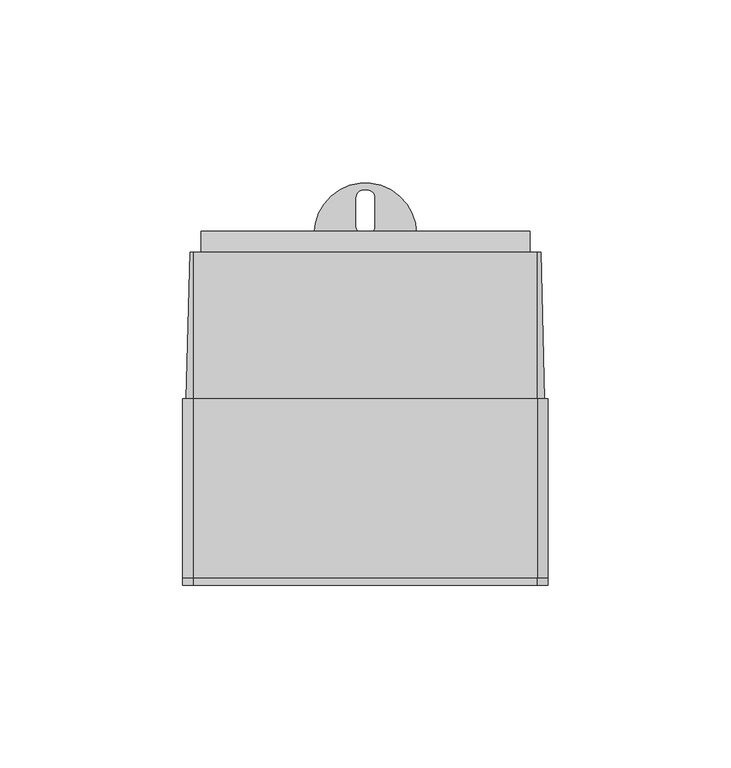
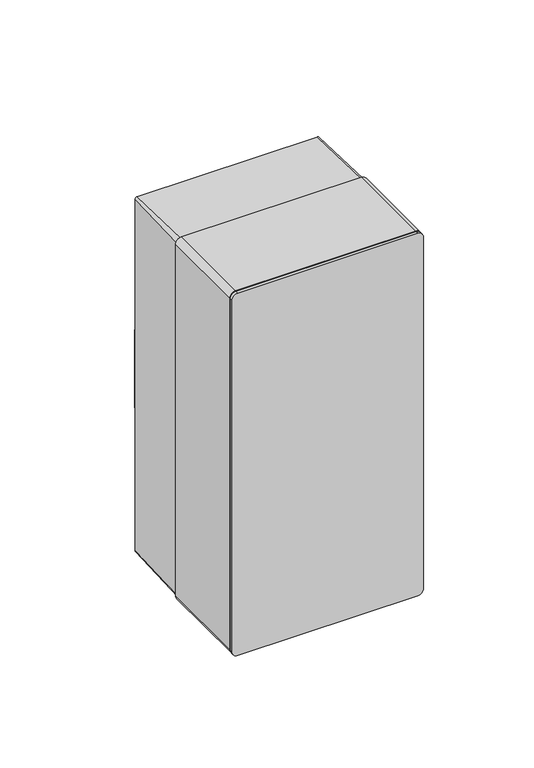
"""IFC4 building model written with IfcOpenShell, lengths in millimetres: proxy geometry, КМПнИ-4 : КМПнИ-4."""

from ifc_helpers import new_model, si_unit, point, frame, frame_2d, origin, place, context, project, spatial, polyline, circle_curve, trimmed, segment, composite_curve, outline, extrude, source, transform, mapped, element, save
from ifc_brep_helpers import plane_surface, cylinder_surface, revolved_surface, advanced_brep


def electrical_equipment_f46c113c(model_context):
    return source(origin(), model_context, "Body", "SolidModel", [
        advanced_brep(
        [(45.0, 91.0, 39.1505108), (45.0, 91.0, 158.5875038), (45.0, 81.0, 158.5875038), (45.0, 81.0, 39.1505108), (-45.0, 91.0, 39.1505108), (-45.0, 81.0, 39.1505108), (-45.0, 81.0, 158.5875038), (-45.0, 91.0, 158.5875038), (24.0, 91.0, 158.5875038), (24.0, 81.0, 158.5875038), (-24.0, 81.0, 158.5875038), (-24.0, 91.0, 158.5875038), (-14.0, 91.0, 39.1505108), (14.0, 91.0, 39.1505108), (24.0, 91.0, 165.0875038), (24.0, 88.0, 168.0875038), (24.0, 84.0, 168.0875038), (24.0, 81.0, 165.0875038), (-24.0, 81.0, 165.0875038), (-24.0, 84.0, 168.0875038), (-24.0, 88.0, 168.0875038), (-24.0, 91.0, 165.0875038), (-14.0, 96.0, 39.1505108), (14.0, 96.0, 39.1505108), (-2.5, 98.0, 39.1505108), (-2.5, 106.0, 39.1505108), (-0.5, 108.0, 39.1505108), (0.5, 108.0, 39.1505108), (2.5, 106.0, 39.1505108), (2.5, 98.0, 39.1505108), (0.5, 96.0, 39.1505108), (-0.5, 96.0, 39.1505108), (-14.0, 96.0, 33.1505108), (14.0, 96.0, 33.1505108), (14.0, 91.0, 33.1505108), (-14.0, 91.0, 33.1505108), (-2.5, 98.0, 33.1505108), (-0.5, 96.0, 33.1505108), (0.5, 96.0, 33.1505108), (2.5, 98.0, 33.1505108), (2.5, 106.0, 33.1505108), (0.5, 108.0, 33.1505108), (-0.5, 108.0, 33.1505108), (-2.5, 106.0, 33.1505108)],
        [
            (0, 1, circle_curve(frame((45.0, -181.7178029, 98.8690073), z_axis=(1.0, 0.0, 0.0), x_axis=(0.0, 0.0, -1.0)), 279.1796891)),
            (1, 2),
            (2, 3, circle_curve(frame((45.0, -191.7178029, 98.8690073), z_axis=(-1.0, 0.0, 0.0), x_axis=(0.0, 0.0, -1.0)), 279.1796891)),
            (3, 0),
            (4, 5),
            (5, 6, circle_curve(frame((-45.0, -191.7178029, 98.8690073), z_axis=(1.0, 0.0, 0.0), x_axis=(0.0, 0.0, -1.0)), 279.1796891)),
            (6, 7),
            (7, 4, circle_curve(frame((-45.0, -181.7178029, 98.8690073), z_axis=(-1.0, 0.0, 0.0), x_axis=(0.0, 0.0, -1.0)), 279.1796891)),
            (1, 8),
            (8, 9),
            (9, 2),
            (6, 10),
            (10, 11),
            (11, 7),
            (3, 5),
            (4, 12),
            (12, 13),
            (13, 0),
            (13, 12),
            (11, 8),
            (9, 10),
            (8, 14),
            (14, 15, circle_curve(frame((24.0, 88.0, 165.0875038), z_axis=(1.0, 0.0, 0.0), x_axis=(0.0, 1.0, 0.0)), 3.0)),
            (15, 16),
            (16, 17, circle_curve(frame((24.0, 84.0, 165.0875038), z_axis=(1.0, 0.0, 0.0), x_axis=(0.0, 1.0, 0.0)), 3.0)),
            (17, 9),
            (10, 18),
            (18, 19, circle_curve(frame((-24.0, 84.0, 165.0875038), z_axis=(-1.0, 0.0, 0.0), x_axis=(0.0, 1.0, 0.0)), 3.0)),
            (19, 20),
            (20, 21, circle_curve(frame((-24.0, 88.0, 165.0875038), z_axis=(-1.0, 0.0, 0.0), x_axis=(0.0, 1.0, 0.0)), 3.0)),
            (21, 11),
            (21, 14),
            (20, 15),
            (19, 16),
            (18, 17),
            (22, 12),
            (13, 23),
            (23, 22, circle_curve(frame((0.0, 96.0, 39.1505108), z_axis=(0.0, 0.0, 1.0), x_axis=(1.0, 0.0, 0.0)), 14.0)),
            (24, 25),
            (25, 26, circle_curve(frame((-0.5, 106.0, 39.1505108), z_axis=(0.0, 0.0, -1.0), x_axis=(1.0, 0.0, 0.0)), 2.0)),
            (26, 27),
            (27, 28, circle_curve(frame((0.5, 106.0, 39.1505108), z_axis=(0.0, 0.0, -1.0), x_axis=(1.0, 0.0, 0.0)), 2.0)),
            (28, 29),
            (29, 30, circle_curve(frame((0.5, 98.0, 39.1505108), z_axis=(0.0, 0.0, -1.0), x_axis=(1.0, 0.0, 0.0)), 2.0)),
            (30, 31),
            (31, 24, circle_curve(frame((-0.5, 98.0, 39.1505108), z_axis=(0.0, 0.0, -1.0), x_axis=(1.0, 0.0, 0.0)), 2.0)),
            (32, 33, circle_curve(frame((0.0, 96.0, 33.1505108), z_axis=(0.0, 0.0, -1.0), x_axis=(1.0, 0.0, 0.0)), 14.0)),
            (33, 34),
            (34, 35),
            (35, 32),
            (36, 37, circle_curve(frame((-0.5, 98.0, 33.1505108), z_axis=(0.0, 0.0, 1.0), x_axis=(1.0, 0.0, 0.0)), 2.0)),
            (37, 38),
            (38, 39, circle_curve(frame((0.5, 98.0, 33.1505108), z_axis=(0.0, 0.0, 1.0), x_axis=(1.0, 0.0, 0.0)), 2.0)),
            (39, 40),
            (40, 41, circle_curve(frame((0.5, 106.0, 33.1505108), z_axis=(0.0, 0.0, 1.0), x_axis=(1.0, 0.0, 0.0)), 2.0)),
            (41, 42),
            (42, 43, circle_curve(frame((-0.5, 106.0, 33.1505108), z_axis=(0.0, 0.0, 1.0), x_axis=(1.0, 0.0, 0.0)), 2.0)),
            (43, 36),
            (22, 32),
            (35, 12),
            (34, 13),
            (33, 23),
            (24, 36),
            (43, 25),
            (28, 40),
            (39, 29),
            (42, 26),
            (41, 27),
            (38, 30),
            (37, 31),
        ],
        [
            plane_surface(frame((45.0, -181.7178029, -180.3106818), z_axis=(1.0, 0.0, 0.0), x_axis=(0.0, 1.0, 0.0))),
            plane_surface(frame((-45.0, -181.7178029, -180.3106818), z_axis=(-1.0, 0.0, 0.0), x_axis=(0.0, -1.0, 0.0))),
            plane_surface(frame((45.0, 91.0, 158.5875038), z_axis=(0.0, 0.0, 1.0), x_axis=(-1.0, 0.0, 0.0))),
            plane_surface(frame((45.0, 81.0, 39.1505108), z_axis=(0.0, 0.0, -1.0), x_axis=(-1.0, 0.0, 0.0))),
            cylinder_surface(frame((-45.0, -181.7178029, 98.8690073), z_axis=(1.0, 0.0, 0.0), x_axis=(0.0, 0.0, -1.0)), 279.1796891),
            revolved_surface(polyline([(-45.0, -191.7178029, -180.3106818), (45.0, -191.7178029, -180.3106818)]), (-45.0, -191.7178029, 98.8690073), (-1.0, 0.0, 0.0)),
            plane_surface(frame((24.0, 91.0, 158.5875038), z_axis=(1.0, 0.0, 0.0), x_axis=(0.0, 1.0, 0.0))),
            plane_surface(frame((-24.0, 91.0, 158.5875038), z_axis=(-1.0, 0.0, 0.0), x_axis=(0.0, -1.0, 0.0))),
            plane_surface(frame((24.0, 91.0, 158.5875038), z_axis=(0.0, 1.0, 0.0), x_axis=(-1.0, 0.0, 0.0))),
            cylinder_surface(frame((-24.0, 88.0, 165.0875038), z_axis=(1.0, 0.0, 0.0), x_axis=(0.0, 1.0, 0.0)), 3.0),
            plane_surface(frame((24.0, 88.0, 168.0875038), z_axis=(0.0, 0.0, 1.0), x_axis=(-1.0, 0.0, 0.0))),
            cylinder_surface(frame((-24.0, 84.0, 165.0875038), z_axis=(1.0, 0.0, 0.0), x_axis=(0.0, 1.0, 0.0)), 3.0),
            plane_surface(frame((24.0, 81.0, 165.0875038), z_axis=(0.0, -1.0, 0.0), x_axis=(-1.0, 0.0, 0.0))),
            plane_surface(frame((-14.0, 81.0, 39.1505108), z_axis=(0.0, 0.0, 1.0), x_axis=(0.0, -1.0, 0.0))),
            plane_surface(frame((-14.0, 81.0, 33.1505108), z_axis=(0.0, 0.0, -1.0), x_axis=(0.0, 1.0, 0.0))),
            plane_surface(frame((-14.0, 96.0, 39.1505108), z_axis=(-1.0, 0.0, 0.0), x_axis=(0.0, 0.0, -1.0))),
            plane_surface(frame((-14.0, 91.0, 39.1505108), z_axis=(0.0, -1.0, 0.0), x_axis=(0.0, 0.0, -1.0))),
            plane_surface(frame((14.0, 91.0, 39.1505108), z_axis=(1.0, 0.0, 0.0), x_axis=(0.0, 0.0, -1.0))),
            plane_surface(frame((-2.5, 98.0, 39.1505108), z_axis=(1.0, 0.0, 0.0), x_axis=(0.0, 0.0, -1.0))),
            plane_surface(frame((2.5, 106.0, 39.1505108), z_axis=(-1.0, 0.0, 0.0), x_axis=(0.0, 0.0, -1.0))),
            cylinder_surface(frame((0.0, 96.0, 33.1505108), z_axis=(0.0, 0.0, 1.0), x_axis=(1.0, 0.0, 0.0)), 14.0),
            revolved_surface(polyline([(1.5, 106.0, 33.1505108), (1.5, 106.0, 39.1505108)]), (-0.5, 106.0, -32.1309927), (0.0, 0.0, -1.0)),
            plane_surface(frame((-0.5, 108.0, 39.1505108), z_axis=(0.0, -1.0, 0.0), x_axis=(0.0, 0.0, -1.0))),
            revolved_surface(polyline([(2.5, 106.0, 33.1505108), (2.5, 106.0, 39.1505108)]), (0.5, 106.0, -32.1309927), (0.0, 0.0, -1.0)),
            revolved_surface(polyline([(2.5, 98.0, 33.1505108), (2.5, 98.0, 39.1505108)]), (0.5, 98.0, -32.1309927), (0.0, 0.0, -1.0)),
            plane_surface(frame((0.5, 96.0, 39.1505108), z_axis=(0.0, 1.0, 0.0), x_axis=(0.0, 0.0, -1.0))),
            revolved_surface(polyline([(1.5, 98.0, 33.1505108), (1.5, 98.0, 39.1505108)]), (-0.5, 98.0, -32.1309927), (0.0, 0.0, -1.0)),
        ],
        [
            (0, [[1, 2, 3, 4]]),
            (1, [[5, 6, 7, 8]]),
            (2, [[-2, 9, 10, 11]]),
            (2, [[-7, 12, 13, 14]]),
            (3, [[-4, 15, -5, 16, 17, 18]]),
            (4, [[-1, -18, 19, -16, -8, -14, 20, -9]]),
            (5, [[-3, -11, 21, -12, -6, -15]]),
            (6, [[22, 23, 24, 25, 26, -10]]),
            (7, [[27, 28, 29, 30, 31, -13]]),
            (8, [[-22, -20, -31, 32]]),
            (9, [[-23, -32, -30, 33]]),
            (10, [[-24, -33, -29, 34]]),
            (11, [[-25, -34, -28, 35]]),
            (12, [[-26, -35, -27, -21]]),
            (13, [[36, -19, 37, 38], [39, 40, 41, 42, 43, 44, 45, 46]]),
            (14, [[47, 48, 49, 50], [51, 52, 53, 54, 55, 56, 57, 58]]),
            (15, [[-36, 59, -50, 60]]),
            (16, [[-49, 61, -17, -60]]),
            (17, [[-37, -61, -48, 62]]),
            (18, [[-39, 63, -58, 64]]),
            (19, [[-43, 65, -54, 66]]),
            (20, [[-38, -62, -47, -59]]),
            (21, [[-40, -64, -57, 67]]),
            (22, [[-41, -67, -56, 68]]),
            (23, [[-42, -68, -55, -65]]),
            (24, [[-44, -66, -53, 69]]),
            (25, [[-45, -69, -52, 70]]),
            (26, [[-46, -70, -51, -63]]),
        ],
    ),
        advanced_brep(
        [(30.6663126, 91.0, 190.471979), (30.6663126, 51.0, 190.471979), (40.6663126, 51.0, 190.471979), (40.6663126, 91.0, 190.471979), (47.0, 91.0, 198.0), (48.0, 91.0, 197.0), (48.0, 91.0, 3.0), (47.0, 91.0, 2.0), (-47.0, 91.0, 2.0), (-48.0, 91.0, 3.0), (-48.0, 91.0, 197.0), (-47.0, 91.0, 198.0), (-45.0, 91.0, 159.0), (-45.0, 91.0, 39.0), (-15.0, 91.0, 39.0), (-15.0, 91.0, 31.0), (0.0, 91.0, 31.0), (15.0, 91.0, 31.0), (15.0, 91.0, 39.0), (45.0, 91.0, 39.0), (45.0, 91.0, 159.0), (25.0, 91.0, 159.0), (25.0, 91.0, 169.0), (0.0, 91.0, 169.0), (-25.0, 91.0, 169.0), (-25.0, 91.0, 159.0), (-40.6663126, 91.0, 190.471979), (-30.6663126, 91.0, 190.471979), (40.6663126, 91.0, 9.528021), (30.6663126, 91.0, 9.528021), (-30.6663126, 91.0, 9.528021), (-40.6663126, 91.0, 9.528021), (47.0, 51.0, 199.0), (-47.0, 51.0, 199.0), (-49.0, 51.0, 197.0), (-49.0, 51.0, 3.0), (-47.0, 51.0, 1.0), (47.0, 51.0, 1.0), (49.0, 51.0, 3.0), (49.0, 51.0, 197.0), (-30.6663126, 51.0, 190.471979), (-40.6663126, 51.0, 190.471979), (30.6663126, 51.0, 9.528021), (40.6663126, 51.0, 9.528021), (-40.6663126, 51.0, 9.528021), (-30.6663126, 51.0, 9.528021), (-45.0, 83.4974153, 159.0), (-45.0, 83.4974153, 39.0), (45.0, 83.4974153, 39.0), (45.0, 83.4974153, 159.0), (25.0, 83.4974153, 159.0), (25.0, 83.4974153, 169.0), (0.0, 83.4974153, 169.0), (-25.0, 83.4974153, 169.0), (-25.0, 83.4974153, 159.0), (-15.0, 83.4974153, 39.0), (-15.0, 83.4974153, 31.0), (0.0, 83.4974153, 31.0), (15.0, 83.4974153, 31.0), (15.0, 83.4974153, 39.0)],
        [
            (0, 1),
            (1, 2, circle_curve(frame((35.6663126, 51.0, 190.471979), z_axis=(0.0, -1.0, 0.0), x_axis=(-1.0, 0.0, 0.0)), 5.0)),
            (2, 3),
            (3, 0, circle_curve(frame((35.6663126, 91.0, 190.471979), z_axis=(0.0, 1.0, 0.0), x_axis=(-1.0, 0.0, 0.0)), 5.0)),
            (0, 3, circle_curve(frame((35.6663126, 91.0, 190.471979), z_axis=(0.0, 1.0, 0.0), x_axis=(-1.0, 0.0, 0.0)), 5.0)),
            (2, 1, circle_curve(frame((35.6663126, 51.0, 190.471979), z_axis=(0.0, -1.0, 0.0), x_axis=(-1.0, 0.0, 0.0)), 5.0)),
            (4, 5, circle_curve(frame((47.0, 91.0, 197.0), z_axis=(0.0, 1.0, 0.0), x_axis=(0.0, 0.0, 1.0)), 1.0)),
            (5, 6),
            (6, 7, circle_curve(frame((47.0, 91.0, 3.0), z_axis=(0.0, 1.0, 0.0), x_axis=(1.0, 0.0, 0.0)), 1.0)),
            (7, 8),
            (8, 9, circle_curve(frame((-47.0, 91.0, 3.0), z_axis=(0.0, 1.0, 0.0), x_axis=(0.0, 0.0, -1.0)), 1.0)),
            (9, 10),
            (10, 11, circle_curve(frame((-47.0, 91.0, 197.0), z_axis=(0.0, 1.0, 0.0), x_axis=(-1.0, 0.0, 0.0)), 1.0)),
            (11, 4),
            (12, 13),
            (13, 14),
            (14, 15),
            (15, 16),
            (16, 17),
            (17, 18),
            (18, 19),
            (19, 20),
            (20, 21),
            (21, 22),
            (22, 23),
            (23, 24),
            (24, 25),
            (25, 12),
            (26, 27, circle_curve(frame((-35.6663126, 91.0, 190.471979), z_axis=(0.0, -1.0, 0.0), x_axis=(1.0, 0.0, 0.0)), 5.0)),
            (27, 26, circle_curve(frame((-35.6663126, 91.0, 190.471979), z_axis=(0.0, -1.0, 0.0), x_axis=(1.0, 0.0, 0.0)), 5.0)),
            (28, 29, circle_curve(frame((35.6663126, 91.0, 9.528021), z_axis=(0.0, -1.0, 0.0), x_axis=(-1.0, 0.0, 0.0)), 5.0)),
            (29, 28, circle_curve(frame((35.6663126, 91.0, 9.528021), z_axis=(0.0, -1.0, 0.0), x_axis=(-1.0, 0.0, 0.0)), 5.0)),
            (30, 31, circle_curve(frame((-35.6663126, 91.0, 9.528021), z_axis=(0.0, -1.0, 0.0), x_axis=(1.0, 0.0, 0.0)), 5.0)),
            (31, 30, circle_curve(frame((-35.6663126, 91.0, 9.528021), z_axis=(0.0, -1.0, 0.0), x_axis=(1.0, 0.0, 0.0)), 5.0)),
            (32, 33),
            (33, 34, circle_curve(frame((-47.0, 51.0, 197.0), z_axis=(0.0, -1.0, 0.0), x_axis=(-1.0, 0.0, 0.0)), 2.0)),
            (34, 35),
            (35, 36, circle_curve(frame((-47.0, 51.0, 3.0), z_axis=(0.0, -1.0, 0.0), x_axis=(0.0, 0.0, -1.0)), 2.0)),
            (36, 37),
            (37, 38, circle_curve(frame((47.0, 51.0, 3.0), z_axis=(0.0, -1.0, 0.0), x_axis=(1.0, 0.0, 0.0)), 2.0)),
            (38, 39),
            (39, 32, circle_curve(frame((47.0, 51.0, 197.0), z_axis=(0.0, -1.0, 0.0), x_axis=(0.0, 0.0, 1.0)), 2.0)),
            (40, 41, circle_curve(frame((-35.6663126, 51.0, 190.471979), z_axis=(0.0, 1.0, 0.0), x_axis=(1.0, 0.0, 0.0)), 5.0)),
            (41, 40, circle_curve(frame((-35.6663126, 51.0, 190.471979), z_axis=(0.0, 1.0, 0.0), x_axis=(1.0, 0.0, 0.0)), 5.0)),
            (42, 43, circle_curve(frame((35.6663126, 51.0, 9.528021), z_axis=(0.0, 1.0, 0.0), x_axis=(-1.0, 0.0, 0.0)), 5.0)),
            (43, 42, circle_curve(frame((35.6663126, 51.0, 9.528021), z_axis=(0.0, 1.0, 0.0), x_axis=(-1.0, 0.0, 0.0)), 5.0)),
            (44, 45, circle_curve(frame((-35.6663126, 51.0, 9.528021), z_axis=(0.0, 1.0, 0.0), x_axis=(1.0, 0.0, 0.0)), 5.0)),
            (45, 44, circle_curve(frame((-35.6663126, 51.0, 9.528021), z_axis=(0.0, 1.0, 0.0), x_axis=(1.0, 0.0, 0.0)), 5.0)),
            (11, 33),
            (32, 4),
            (10, 34),
            (9, 35),
            (8, 36),
            (7, 37),
            (6, 38),
            (5, 39),
            (46, 47),
            (47, 13),
            (12, 46),
            (48, 49),
            (49, 20),
            (19, 48),
            (49, 50),
            (50, 21),
            (50, 51),
            (51, 22),
            (51, 52),
            (52, 23),
            (52, 53),
            (53, 24),
            (53, 54),
            (54, 25),
            (54, 46),
            (47, 55),
            (55, 14),
            (55, 56),
            (56, 15),
            (56, 57),
            (57, 16),
            (57, 58),
            (58, 17),
            (58, 59),
            (59, 18),
            (59, 48),
            (26, 41),
            (40, 27),
            (28, 43),
            (42, 29),
            (30, 45),
            (44, 31),
        ],
        [
            revolved_surface(polyline([(30.666312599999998, 51.0, 190.471979), (30.666312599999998, 91.0, 190.471979)]), (35.6663126, 91.0, 190.471979), (0.0, -1.0, 0.0)),
            plane_surface(frame((0.0, 91.0, 100.0), z_axis=(0.0, 1.0, 0.0), x_axis=(-1.0, 0.0, 0.0))),
            plane_surface(frame((0.0, 51.0, 100.0), z_axis=(0.0, -1.0, 0.0), x_axis=(-1.0, 0.0, 0.0))),
            plane_surface(frame((0.0, 51.0, 199.0), z_axis=(0.0, 0.024992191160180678, 0.9996876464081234), x_axis=(1.0, 0.0, 0.0))),
            revolved_surface(polyline([(-48.0, 91.0, 197.0), (-49.0, 51.0, 197.0)]), (-47.0, 131.0, 197.0), (0.0, -1.0, 0.0)),
            plane_surface(frame((-49.0, 51.0, 100.0), z_axis=(-0.9996876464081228, 0.024992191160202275, 0.0), x_axis=(0.0, 0.0, 1.0))),
            revolved_surface(polyline([(-47.0, 91.0, 2.0), (-47.0, 51.0, 1.0)]), (-47.0, 131.0, 3.0), (0.0, -1.0, 0.0)),
            plane_surface(frame((0.0, 51.0, 1.0), z_axis=(0.0, 0.024992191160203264, -0.9996876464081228), x_axis=(-1.0, 0.0, 0.0))),
            revolved_surface(polyline([(48.0, 91.0, 3.0), (49.0, 51.0, 3.0)]), (47.0, 131.0, 3.0), (0.0, -1.0, 0.0)),
            plane_surface(frame((49.0, 51.0, 100.0), z_axis=(0.9996876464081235, 0.024992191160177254, 0.0), x_axis=(0.0, 0.0, -1.0))),
            revolved_surface(polyline([(47.0, 91.0, 198.0), (47.0, 51.0, 199.0)]), (47.0, 131.0, 197.0), (0.0, -1.0, 0.0)),
            plane_surface(frame((-45.0, 83.4974153, 159.0), z_axis=(1.0, 0.0, 0.0), x_axis=(0.0, 1.0, 0.0))),
            plane_surface(frame((45.0, 83.4974153, 39.0), z_axis=(-1.0, 0.0, 0.0), x_axis=(0.0, 1.0, 0.0))),
            plane_surface(frame((45.0, 83.4974153, 159.0), z_axis=(0.0, 0.0, -1.0), x_axis=(0.0, 1.0, 0.0))),
            plane_surface(frame((25.0, 83.4974153, 159.0), z_axis=(-1.0, 0.0, 0.0), x_axis=(0.0, 1.0, 0.0))),
            plane_surface(frame((25.0, 83.4974153, 169.0), z_axis=(0.0, 0.0, -1.0), x_axis=(0.0, 1.0, 0.0))),
            plane_surface(frame((0.0, 83.4974153, 169.0), z_axis=(0.0, 0.0, -1.0), x_axis=(0.0, 1.0, 0.0))),
            plane_surface(frame((-25.0, 83.4974153, 169.0), z_axis=(1.0, 0.0, 0.0), x_axis=(0.0, 1.0, 0.0))),
            plane_surface(frame((-25.0, 83.4974153, 159.0), z_axis=(0.0, 0.0, -1.0), x_axis=(0.0, 1.0, 0.0))),
            plane_surface(frame((-45.0, 83.4974153, 39.0), z_axis=(0.0, 0.0, 1.0), x_axis=(0.0, 1.0, 0.0))),
            plane_surface(frame((-15.0, 83.4974153, 39.0), z_axis=(1.0, 0.0, 0.0), x_axis=(0.0, 1.0, 0.0))),
            plane_surface(frame((-15.0, 83.4974153, 31.0), z_axis=(0.0, 0.0, 1.0), x_axis=(0.0, 1.0, 0.0))),
            plane_surface(frame((0.0, 83.4974153, 31.0), z_axis=(0.0, 0.0, 1.0), x_axis=(0.0, 1.0, 0.0))),
            plane_surface(frame((15.0, 83.4974153, 31.0), z_axis=(-1.0, 0.0, 0.0), x_axis=(0.0, 1.0, 0.0))),
            plane_surface(frame((15.0, 83.4974153, 39.0), z_axis=(0.0, 0.0, 1.0), x_axis=(0.0, 1.0, 0.0))),
            revolved_surface(polyline([(-30.666312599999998, 51.0, 190.471979), (-30.666312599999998, 91.0, 190.471979)]), (-35.6663126, 91.0, 190.471979), (0.0, -1.0, 0.0)),
            revolved_surface(polyline([(30.666312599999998, 51.0, 9.528021), (30.666312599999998, 91.0, 9.528021)]), (35.6663126, 91.0, 9.528021), (0.0, -1.0, 0.0)),
            revolved_surface(polyline([(-30.666312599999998, 51.0, 9.528021), (-30.666312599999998, 91.0, 9.528021)]), (-35.6663126, 91.0, 9.528021), (0.0, -1.0, 0.0)),
            plane_surface(frame((-45.0, 83.4974153, 39.0), z_axis=(0.0, 1.0, 0.0), x_axis=(0.0, 0.0, -1.0))),
        ],
        [
            (0, [[1, 2, 3, 4]]),
            (0, [[-1, 5, -3, 6]]),
            (1, [[7, 8, 9, 10, 11, 12, 13, 14], [-4, -5], [15, 16, 17, 18, 19, 20, 21, 22, 23, 24, 25, 26, 27, 28], [29, 30], [31, 32], [33, 34]]),
            (2, [[35, 36, 37, 38, 39, 40, 41, 42], [-2, -6], [43, 44], [45, 46], [47, 48]]),
            (3, [[-14, 49, -35, 50]]),
            (4, [[-13, 51, -36, -49]]),
            (5, [[-12, 52, -37, -51]]),
            (6, [[-11, 53, -38, -52]]),
            (7, [[-10, 54, -39, -53]]),
            (8, [[-9, 55, -40, -54]]),
            (9, [[-8, 56, -41, -55]]),
            (10, [[-7, -50, -42, -56]]),
            (11, [[57, 58, -15, 59]]),
            (12, [[60, 61, -22, 62]]),
            (13, [[63, 64, -23, -61]]),
            (14, [[65, 66, -24, -64]]),
            (15, [[67, 68, -25, -66]]),
            (16, [[69, 70, -26, -68]]),
            (17, [[71, 72, -27, -70]]),
            (18, [[73, -59, -28, -72]]),
            (19, [[74, 75, -16, -58]]),
            (20, [[76, 77, -17, -75]]),
            (21, [[78, 79, -18, -77]]),
            (22, [[80, 81, -19, -79]]),
            (23, [[82, 83, -20, -81]]),
            (24, [[84, -62, -21, -83]]),
            (25, [[85, -43, 86, -29]]),
            (25, [[-85, -30, -86, -44]]),
            (26, [[87, -45, 88, -31]]),
            (26, [[-87, -32, -88, -46]]),
            (27, [[89, -47, 90, -33]]),
            (27, [[-89, -34, -90, -48]]),
            (28, [[-73, -71, -69, -67, -65, -63, -60, -84, -82, -80, -78, -76, -74, -57]]),
        ],
    ),
        extrude(outline(composite_curve([segment(polyline([(200.0, 47.0143257), (200.0, -46.9856743)]), True, "CONTINUOUS"), segment(trimmed(circle_curve(frame_2d((197.0, -46.9856743)), 3.0), [point((200.0, -46.9856743))], [point((197.0, -49.9856743))], False, "CARTESIAN"), True, "CONTINUOUS"), segment(polyline([(197.0, -49.9856743), (3.0, -49.9856743)]), True, "CONTINUOUS"), segment(trimmed(circle_curve(frame_2d((3.0, -46.9856743)), 3.0), [point((3.0, -49.9856743))], [point((0.0, -46.9856743))], False, "CARTESIAN"), True, "CONTINUOUS"), segment(polyline([(0.0, -46.9856743), (0.0, 47.0143257)]), True, "CONTINUOUS"), segment(trimmed(circle_curve(frame_2d((3.0, 47.0143257)), 3.0), [point((0.0, 47.0143257))], [point((3.0, 50.0143257))], False, "CARTESIAN"), True, "CONTINUOUS"), segment(polyline([(3.0, 50.0143257), (197.0, 50.0143257)]), True, "CONTINUOUS"), segment(trimmed(circle_curve(frame_2d((197.0, 47.0143257)), 3.0), [point((197.0, 50.0143257))], [point((200.0, 47.0143257))], False, "CARTESIAN"), True, "CONTINUOUS")], self_intersect=False), holes=[polyline([(148.4981471, 41.4911629), (51.5018529, 41.4911629), (51.5018529, -41.4911629), (148.4981471, -41.4911629), (148.4981471, 41.4911629)])]), frame((0.0, 2.0, 0.0), z_axis=(0.0, 1.0, 0.0), x_axis=(0.0, 0.0, 1.0)), (0.0, 0.0, 1.0), 49.0),
        extrude(outline(composite_curve([segment(polyline([(199.9759122, 47.0015594), (199.9759122, -46.9729081)]), True, "CONTINUOUS"), segment(trimmed(circle_curve(frame_2d((196.9707093, -46.9729081)), 3.0052029), [point((199.9759122, -46.9729081))], [point((196.9707093, -49.978111))], False, "CARTESIAN"), True, "CONTINUOUS"), segment(polyline([(196.9707093, -49.978111), (3.0081273, -49.978111)]), True, "CONTINUOUS"), segment(trimmed(circle_curve(frame_2d((3.0398721, -46.9834898)), 2.9947895), [point((3.0081273, -49.978111))], [point((0.0452509, -46.9517444))], False, "CARTESIAN"), True, "CONTINUOUS"), segment(polyline([(0.0452509, -46.9517444), (0.0029241, 47.0015591)]), True, "CONTINUOUS"), segment(trimmed(circle_curve(frame_2d((3.0187087, 46.9909777)), 3.0158032), [point((0.0029241, 47.0015591))], [point((3.0292907, 50.0067623))], False, "CARTESIAN"), True, "CONTINUOUS"), segment(polyline([(3.0292907, 50.0067623), (196.9707093, 50.0067623)]), True, "CONTINUOUS"), segment(trimmed(circle_curve(frame_2d((196.9707093, 47.0015594)), 3.0052029), [point((196.9707093, 50.0067623))], [point((199.9759122, 47.0015594))], False, "CARTESIAN"), True, "CONTINUOUS")], self_intersect=False)), frame((0.0, 0.0, 0.0), z_axis=(0.0, 1.0, 0.0), x_axis=(0.0, 0.0, 1.0)), (0.0, 0.0, 1.0), 2.0),
    ])


if __name__ == "__main__":
    model = new_model("IFC4")
    model_context = context("Model", 3, world=origin())
    ifc_project = project(units=[si_unit("LENGTHUNIT", "METRE", prefix="MILLI")], contexts=[model_context])
    site = spatial("IfcSite", under=ifc_project)
    building = spatial("IfcBuilding", under=site)
    placement = place(None, origin())
    electrical_equipment_shape = electrical_equipment_f46c113c(model_context)
    element("IfcBuildingElementProxy", 1, Name="КМПнИ-4 : КМПнИ-4", ObjectType="КМПнИ-4 : КМПнИ-4", at=placement, inside=building, context=model_context, shape_type="MappedRepresentation", body=[
        mapped(electrical_equipment_shape, transform((0.0, 0.0, 0.0), x_axis=(1.0, 0.0, 0.0), y_axis=(0.0, 1.0, 0.0), z_axis=(0.0, 0.0, 1.0))),
    ])
    save(model, "model.ifc")
